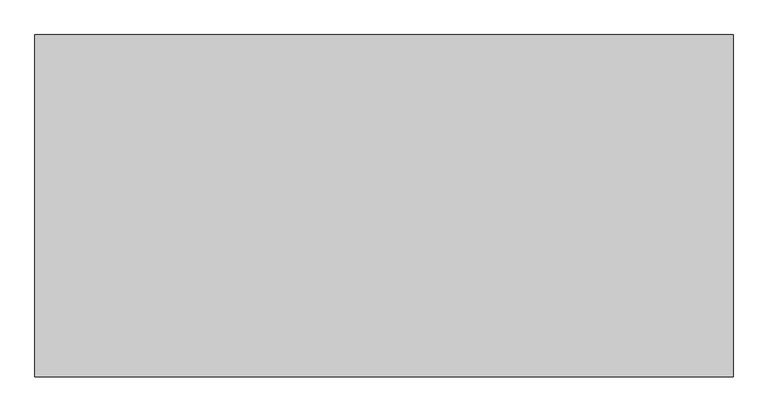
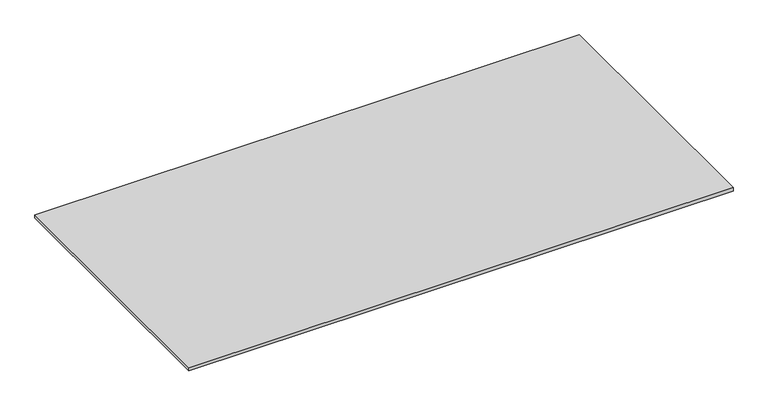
"""IFC4 building model written with IfcOpenShell, lengths in millimetres: furniture geometry, BELENCO_MarquinaLavagna_9719_152cmx310cm : BELENCO_Marquina_Lavagna_9719_152cm*310cm."""

from ifc_helpers import new_model, si_unit, origin, origin_with_axes, place, context, project, spatial, polyline, outline, extrude, source, transform, mapped, element, save


def furniture_22a8cda6(model_context):
    return source(origin(), model_context, "Body", "SweptSolid", [
        extrude(outline(polyline([(1550.0, 760.0), (1550.0, -760.0), (-1550.0, -760.0), (-1550.0, 760.0), (1550.0, 760.0)])), origin_with_axes(), (0.0, 0.0, 1.0), 20.0),
    ])


if __name__ == "__main__":
    model = new_model("IFC4")
    model_context = context("Model", 3, world=origin())
    ifc_project = project(units=[si_unit("LENGTHUNIT", "METRE", prefix="MILLI")], contexts=[model_context])
    site = spatial("IfcSite", under=ifc_project)
    building = spatial("IfcBuilding", under=site)
    placement = place(None, origin())
    furniture_shape = furniture_22a8cda6(model_context)
    element("IfcFurniture", 1, ObjectType="BELENCO_MarquinaLavagna_9719_152cmx310cm : BELENCO_Marquina_Lavagna_9719_152cm*310cm", at=placement, inside=building, context=model_context, shape_type="MappedRepresentation", body=[
        mapped(furniture_shape, transform((0.0, 0.0, 0.0), x_axis=(1.0, 0.0, 0.0), y_axis=(0.0, 1.0, 0.0), z_axis=(0.0, 0.0, 1.0))),
    ])
    save(model, "model.ifc")
